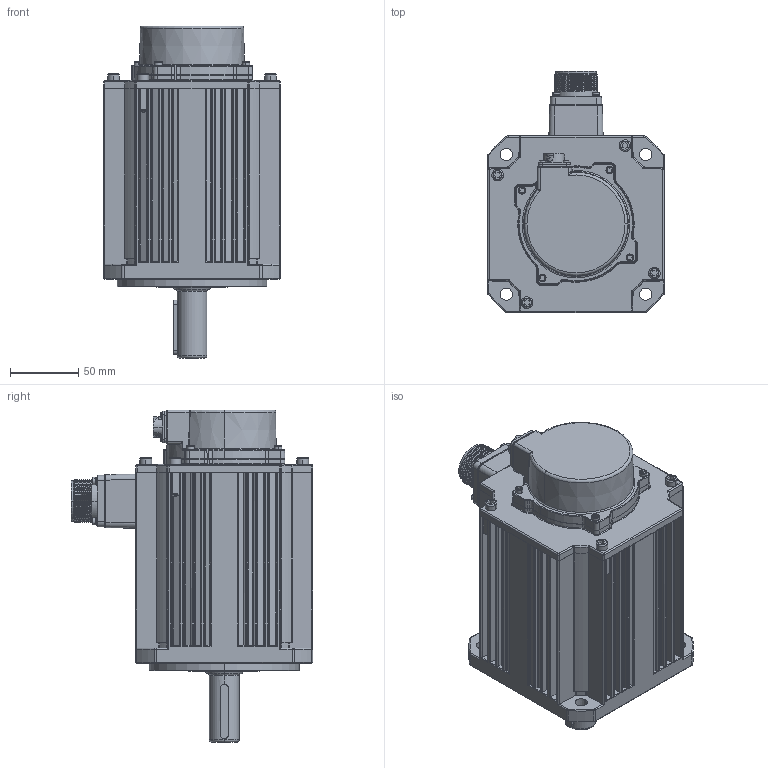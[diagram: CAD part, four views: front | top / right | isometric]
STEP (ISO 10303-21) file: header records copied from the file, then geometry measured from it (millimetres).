
FILE_DESCRIPTION (( 'STEP AP203' ), '1' );
FILE_NAME ('新G3M-13230C25TGAE-S002电机三维图.STEP', '2023-05-09T16:09:06', ( '微软用户' ), ( '微软中国' ), 'SwSTEP 2.0', 'SolidWorks 2016', '' );
FILE_SCHEMA (( 'CONFIG_CONTROL_DESIGN' ));
Products named in the file (1): 新G3M-13230C25TGAE-S002电机三维图
Bounding box: 130 x 177.4 x 244 mm (x, y, z)
Volume: 727026.3 mm3; surface area: 335382.8 mm2
Topology: 26 solids, 26 shells, 4084 faces, 10659 edges, 6752 vertices
Faces by surface type: plane 1594, cylinder 934, bspline 809, cone 470, torus 202, sphere 75
Entity records: 163115 total; most frequent: CARTESIAN_POINT 69095, ORIENTED_EDGE 21010, DIRECTION 17339, EDGE_CURVE 10505, VERTEX_POINT 6732, AXIS2_PLACEMENT_3D 5935, VECTOR 5469, LINE 5469
